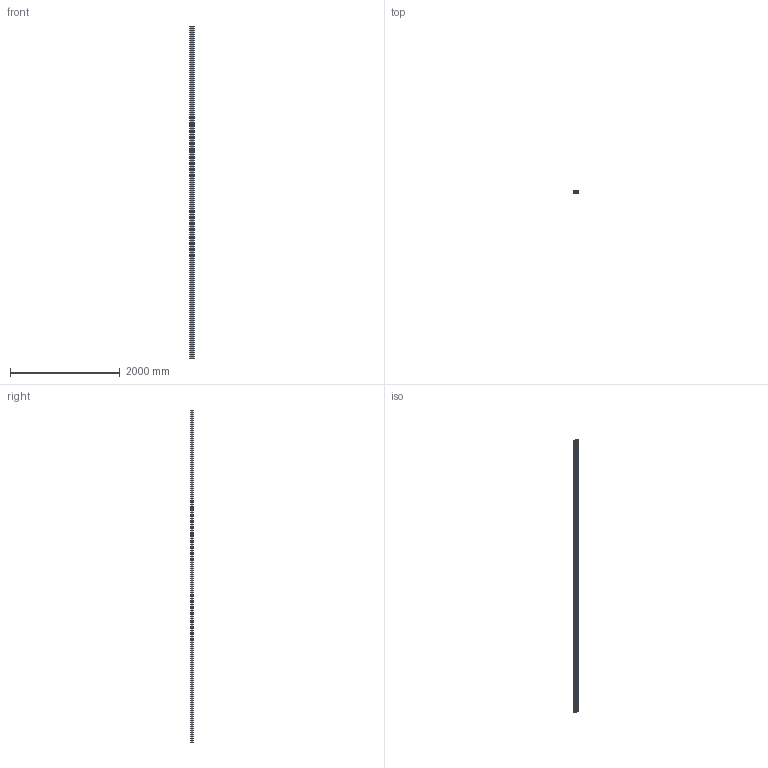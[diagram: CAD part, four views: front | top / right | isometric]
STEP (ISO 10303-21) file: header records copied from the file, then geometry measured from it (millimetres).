
FILE_DESCRIPTION (( 'STEP AP203' ), '1' );
FILE_NAME ('20207820_Profil 8 40x80 E 3N90.step', '2023-12-05T09:21:04', ( '' ), ( '' ), 'SwSTEP 2.0', 'SolidWorks 2021', '' );
FILE_SCHEMA (( 'CONFIG_CONTROL_DESIGN' ));
Length unit declared in the file: millimetre
Products named in the file (1): 20207820_Profil 8 40x80 E 3N90
Bounding box: 80 x 40 x 6060 mm (x, y, z)
Volume: 5129084.5 mm3; surface area: 5028876.1 mm2
Topology: 1 solids, 1 shells, 220 faces, 654 edges, 436 vertices
Faces by surface type: cylinder 135, plane 85
Entity records: 7597 total; most frequent: DIRECTION 1366, CARTESIAN_POINT 1311, ORIENTED_EDGE 1308, EDGE_CURVE 654, AXIS2_PLACEMENT_3D 491, VERTEX_POINT 436, LINE 384, VECTOR 384
